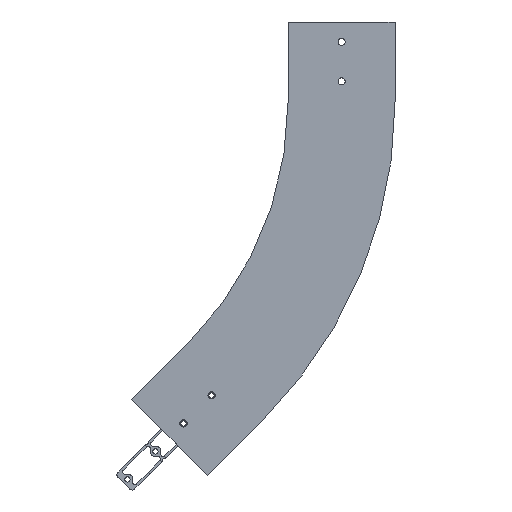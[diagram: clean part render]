
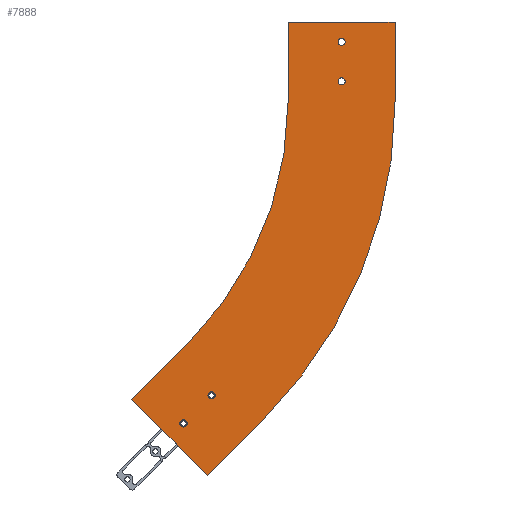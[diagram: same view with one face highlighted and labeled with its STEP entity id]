
A CAD part, left-side view. The second image highlights one B-rep face of the part: STEP entity #7888.
In plain terms, the highlighted planar face has unit normal (-1, 0, 0).
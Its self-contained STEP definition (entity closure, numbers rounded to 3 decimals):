
#489 = CIRCLE ( 'NONE', #6809, 4.5 ) ;
#490 = CIRCLE ( 'NONE', #6810, 4.5 ) ;
#1262 = EDGE_CURVE ( 'NONE', #3542, #3539, #490, .T. ) ;
#1263 = EDGE_CURVE ( 'NONE', #3536, #3535, #489, .T. ) ;
#1287 = DIRECTION ( 'NONE',  ( 0., 0., 1. ) ) ;
#1288 = DIRECTION ( 'NONE',  ( -1., 0., 0. ) ) ;
#1289 = CARTESIAN_POINT ( 'NONE',  ( -59., 0., -25. ) ) ;
#1293 = DIRECTION ( 'NONE',  ( 0., 0., 1. ) ) ;
#1294 = DIRECTION ( 'NONE',  ( -1., 0., 0. ) ) ;
#1295 = CARTESIAN_POINT ( 'NONE',  ( -59., 164.124, -471.231 ) ) ;
#1299 = DIRECTION ( 'NONE',  ( 0., -1., 0. ) ) ;
#1300 = CARTESIAN_POINT ( 'NONE',  ( -59., -67.5, 0. ) ) ;
#1991 = CIRCLE ( 'NONE', #6908, 4.5 ) ;
#1995 = CIRCLE ( 'NONE', #6906, 4.5 ) ;
#1998 = VECTOR ( 'NONE', #1299, 1000. ) ;
#1999 = LINE ( 'NONE', #1300, #1998 ) ;
#2661 = CARTESIAN_POINT ( 'NONE',  ( -59., 169.428, -571.994 ) ) ;
#2670 = CARTESIAN_POINT ( 'NONE',  ( -59., -67.5, -100. ) ) ;
#2685 = CARTESIAN_POINT ( 'NONE',  ( -59., 98.717, -501.283 ) ) ;
#2923 = EDGE_CURVE ( 'NONE', #3444, #3587, #1999, .T. ) ;
#2925 = EDGE_CURVE ( 'NONE', #3555, #3553, #1995, .T. ) ;
#2927 = EDGE_CURVE ( 'NONE', #3547, #3546, #1991, .T. ) ;
#3085 = FACE_OUTER_BOUND ( 'NONE', #4138, .T. ) ;
#3086 = FACE_BOUND ( 'NONE', #4022, .T. ) ;
#3087 = FACE_BOUND ( 'NONE', #4139, .T. ) ;
#3088 = FACE_BOUND ( 'NONE', #4029, .T. ) ;
#3089 = FACE_BOUND ( 'NONE', #4140, .T. ) ;
#3159 = VECTOR ( 'NONE', #7607, 1000. ) ;
#3160 = LINE ( 'NONE', #7606, #3159 ) ;
#3164 = CIRCLE ( 'NONE', #7014, 567.5 ) ;
#3169 = VECTOR ( 'NONE', #7593, 1000. ) ;
#3170 = LINE ( 'NONE', #7592, #3169 ) ;
#3179 = VECTOR ( 'NONE', #7583, 1000. ) ;
#3180 = LINE ( 'NONE', #7582, #3179 ) ;
#3322 = VERTEX_POINT ( 'NONE', #2685 ) ;
#3333 = VERTEX_POINT ( 'NONE', #2670 ) ;
#3339 = VERTEX_POINT ( 'NONE', #2661 ) ;
#3444 = VERTEX_POINT ( 'NONE', #5319 ) ;
#3447 = VERTEX_POINT ( 'NONE', #5322 ) ;
#3457 = VERTEX_POINT ( 'NONE', #5332 ) ;
#3462 = VERTEX_POINT ( 'NONE', #5337 ) ;
#3535 = VERTEX_POINT ( 'NONE', #5410 ) ;
#3536 = VERTEX_POINT ( 'NONE', #5411 ) ;
#3539 = VERTEX_POINT ( 'NONE', #5414 ) ;
#3542 = VERTEX_POINT ( 'NONE', #5417 ) ;
#3546 = VERTEX_POINT ( 'NONE', #5421 ) ;
#3547 = VERTEX_POINT ( 'NONE', #5422 ) ;
#3553 = VERTEX_POINT ( 'NONE', #5428 ) ;
#3555 = VERTEX_POINT ( 'NONE', #5430 ) ;
#3587 = VERTEX_POINT ( 'NONE', #5462 ) ;
#3871 = ORIENTED_EDGE ( 'NONE', *, *, #1262, .F. ) ;
#3872 = ORIENTED_EDGE ( 'NONE', *, *, #6830, .F. ) ;
#3880 = ORIENTED_EDGE ( 'NONE', *, *, #2927, .F. ) ;
#3882 = ORIENTED_EDGE ( 'NONE', *, *, #6834, .F. ) ;
#3884 = ORIENTED_EDGE ( 'NONE', *, *, #2925, .F. ) ;
#3891 = ORIENTED_EDGE ( 'NONE', *, *, #6838, .F. ) ;
#3892 = ORIENTED_EDGE ( 'NONE', *, *, #1263, .F. ) ;
#3893 = ORIENTED_EDGE ( 'NONE', *, *, #6826, .F. ) ;
#3894 = ORIENTED_EDGE ( 'NONE', *, *, #2923, .F. ) ;
#3900 = ORIENTED_EDGE ( 'NONE', *, *, #7212, .F. ) ;
#3901 = ORIENTED_EDGE ( 'NONE', *, *, #7214, .T. ) ;
#3903 = ORIENTED_EDGE ( 'NONE', *, *, #7216, .T. ) ;
#3908 = ORIENTED_EDGE ( 'NONE', *, *, #7230, .T. ) ;
#3909 = ORIENTED_EDGE ( 'NONE', *, *, #7235, .F. ) ;
#3910 = ORIENTED_EDGE ( 'NONE', *, *, #7238, .F. ) ;
#3912 = ORIENTED_EDGE ( 'NONE', *, *, #7241, .T. ) ;
#4022 = EDGE_LOOP ( 'NONE', ( #3892, #3893 ) ) ;
#4029 = EDGE_LOOP ( 'NONE', ( #3880, #3882 ) ) ;
#4138 = EDGE_LOOP ( 'NONE', ( #3894, #3900, #3901, #3903, #3908, #3909, #3910, #3912 ) ) ;
#4139 = EDGE_LOOP ( 'NONE', ( #3884, #3891 ) ) ;
#4140 = EDGE_LOOP ( 'NONE', ( #3871, #3872 ) ) ;
#4406 = VECTOR ( 'NONE', #7553, 1000. ) ;
#4407 = LINE ( 'NONE', #7552, #4406 ) ;
#4409 = CIRCLE ( 'NONE', #7011, 432.5 ) ;
#4413 = VECTOR ( 'NONE', #7544, 1000. ) ;
#4414 = LINE ( 'NONE', #7543, #4413 ) ;
#4486 = CIRCLE ( 'NONE', #7002, 4.5 ) ;
#4492 = CIRCLE ( 'NONE', #7000, 4.5 ) ;
#4498 = CIRCLE ( 'NONE', #6998, 4.5 ) ;
#4504 = CIRCLE ( 'NONE', #6996, 4.5 ) ;
#5319 = CARTESIAN_POINT ( 'NONE',  ( -59., 67.5, 0. ) ) ;
#5322 = CARTESIAN_POINT ( 'NONE',  ( -59., 67.5, -100. ) ) ;
#5332 = CARTESIAN_POINT ( 'NONE',  ( -59., 194.176, -405.824 ) ) ;
#5337 = CARTESIAN_POINT ( 'NONE',  ( -59., 264.887, -476.534 ) ) ;
#5410 = CARTESIAN_POINT ( 'NONE',  ( -59., 199.48, -511.086 ) ) ;
#5411 = CARTESIAN_POINT ( 'NONE',  ( -59., 199.48, -502.086 ) ) ;
#5414 = CARTESIAN_POINT ( 'NONE',  ( -59., 0., -79.5 ) ) ;
#5417 = CARTESIAN_POINT ( 'NONE',  ( -59., 0., -70.5 ) ) ;
#5421 = CARTESIAN_POINT ( 'NONE',  ( -59., 0., -29.5 ) ) ;
#5422 = CARTESIAN_POINT ( 'NONE',  ( -59., 0., -20.5 ) ) ;
#5428 = CARTESIAN_POINT ( 'NONE',  ( -59., 164.124, -475.731 ) ) ;
#5430 = CARTESIAN_POINT ( 'NONE',  ( -59., 164.124, -466.731 ) ) ;
#5462 = CARTESIAN_POINT ( 'NONE',  ( -59., -67.5, 0. ) ) ;
#6202 = DIRECTION ( 'NONE',  ( 0., 0., 1. ) ) ;
#6205 = DIRECTION ( 'NONE',  ( -1., 0., 0. ) ) ;
#6208 = CARTESIAN_POINT ( 'NONE',  ( -59., 199.48, -506.586 ) ) ;
#6212 = DIRECTION ( 'NONE',  ( 0., 0., 1. ) ) ;
#6216 = DIRECTION ( 'NONE',  ( -1., 0., 0. ) ) ;
#6218 = CARTESIAN_POINT ( 'NONE',  ( -59., 0., -75. ) ) ;
#6809 = AXIS2_PLACEMENT_3D ( 'NONE', #6208, #6205, #6202 ) ;
#6810 = AXIS2_PLACEMENT_3D ( 'NONE', #6218, #6216, #6212 ) ;
#6826 = EDGE_CURVE ( 'NONE', #3535, #3536, #4504, .T. ) ;
#6830 = EDGE_CURVE ( 'NONE', #3539, #3542, #4498, .T. ) ;
#6834 = EDGE_CURVE ( 'NONE', #3546, #3547, #4492, .T. ) ;
#6838 = EDGE_CURVE ( 'NONE', #3553, #3555, #4486, .T. ) ;
#6906 = AXIS2_PLACEMENT_3D ( 'NONE', #1295, #1294, #1293 ) ;
#6908 = AXIS2_PLACEMENT_3D ( 'NONE', #1289, #1288, #1287 ) ;
#6996 = AXIS2_PLACEMENT_3D ( 'NONE', #7421, #7422, #7423 ) ;
#6998 = AXIS2_PLACEMENT_3D ( 'NONE', #7432, #7433, #7434 ) ;
#7000 = AXIS2_PLACEMENT_3D ( 'NONE', #7442, #7443, #7444 ) ;
#7002 = AXIS2_PLACEMENT_3D ( 'NONE', #7452, #7453, #7454 ) ;
#7011 = AXIS2_PLACEMENT_3D ( 'NONE', #7547, #7548, #7549 ) ;
#7014 = AXIS2_PLACEMENT_3D ( 'NONE', #7598, #7599, #7600 ) ;
#7058 = AXIS2_PLACEMENT_3D ( 'NONE', #7762, #7763, #7764 ) ;
#7212 = EDGE_CURVE ( 'NONE', #3447, #3444, #4414, .T. ) ;
#7214 = EDGE_CURVE ( 'NONE', #3447, #3457, #4409, .T. ) ;
#7216 = EDGE_CURVE ( 'NONE', #3457, #3462, #4407, .T. ) ;
#7230 = EDGE_CURVE ( 'NONE', #3462, #3339, #3180, .T. ) ;
#7235 = EDGE_CURVE ( 'NONE', #3322, #3339, #3170, .T. ) ;
#7238 = EDGE_CURVE ( 'NONE', #3333, #3322, #3164, .T. ) ;
#7241 = EDGE_CURVE ( 'NONE', #3333, #3587, #3160, .T. ) ;
#7421 = CARTESIAN_POINT ( 'NONE',  ( -59., 199.48, -506.586 ) ) ;
#7422 = DIRECTION ( 'NONE',  ( -1., 0., 0. ) ) ;
#7423 = DIRECTION ( 'NONE',  ( 0., 0., 1. ) ) ;
#7432 = CARTESIAN_POINT ( 'NONE',  ( -59., 0., -75. ) ) ;
#7433 = DIRECTION ( 'NONE',  ( -1., 0., 0. ) ) ;
#7434 = DIRECTION ( 'NONE',  ( 0., 0., 1. ) ) ;
#7442 = CARTESIAN_POINT ( 'NONE',  ( -59., 0., -25. ) ) ;
#7443 = DIRECTION ( 'NONE',  ( -1., 0., 0. ) ) ;
#7444 = DIRECTION ( 'NONE',  ( 0., 0., 1. ) ) ;
#7452 = CARTESIAN_POINT ( 'NONE',  ( -59., 164.124, -471.231 ) ) ;
#7453 = DIRECTION ( 'NONE',  ( -1., 0., 0. ) ) ;
#7454 = DIRECTION ( 'NONE',  ( 0., 0., 1. ) ) ;
#7543 = CARTESIAN_POINT ( 'NONE',  ( -59., 67.5, -100. ) ) ;
#7544 = DIRECTION ( 'NONE',  ( 0., 0., 1. ) ) ;
#7547 = CARTESIAN_POINT ( 'NONE',  ( -59., 500., -100. ) ) ;
#7548 = DIRECTION ( 'NONE',  ( 1., 0., 0. ) ) ;
#7549 = DIRECTION ( 'NONE',  ( 0., 0., -1. ) ) ;
#7552 = CARTESIAN_POINT ( 'NONE',  ( -59., 194.176, -405.824 ) ) ;
#7553 = DIRECTION ( 'NONE',  ( 0., 0.707, -0.707 ) ) ;
#7582 = CARTESIAN_POINT ( 'NONE',  ( -59., 169.428, -571.994 ) ) ;
#7583 = DIRECTION ( 'NONE',  ( 0., -0.707, -0.707 ) ) ;
#7592 = CARTESIAN_POINT ( 'NONE',  ( -59., 98.717, -501.283 ) ) ;
#7593 = DIRECTION ( 'NONE',  ( 0., 0.707, -0.707 ) ) ;
#7598 = CARTESIAN_POINT ( 'NONE',  ( -59., 500., -100. ) ) ;
#7599 = DIRECTION ( 'NONE',  ( 1., 0., 0. ) ) ;
#7600 = DIRECTION ( 'NONE',  ( 0., 0., -1. ) ) ;
#7606 = CARTESIAN_POINT ( 'NONE',  ( -59., -67.5, -100. ) ) ;
#7607 = DIRECTION ( 'NONE',  ( 0., 0., 1. ) ) ;
#7761 = PLANE ( 'NONE',  #7058 ) ;
#7762 = CARTESIAN_POINT ( 'NONE',  ( -59., -67.5, -100. ) ) ;
#7763 = DIRECTION ( 'NONE',  ( -1., 0., 0. ) ) ;
#7764 = DIRECTION ( 'NONE',  ( 0., 0., 1. ) ) ;
#7888 = ADVANCED_FACE ( 'NONE', ( #3089, #3088, #3087, #3086, #3085 ), #7761, .T. ) ;
